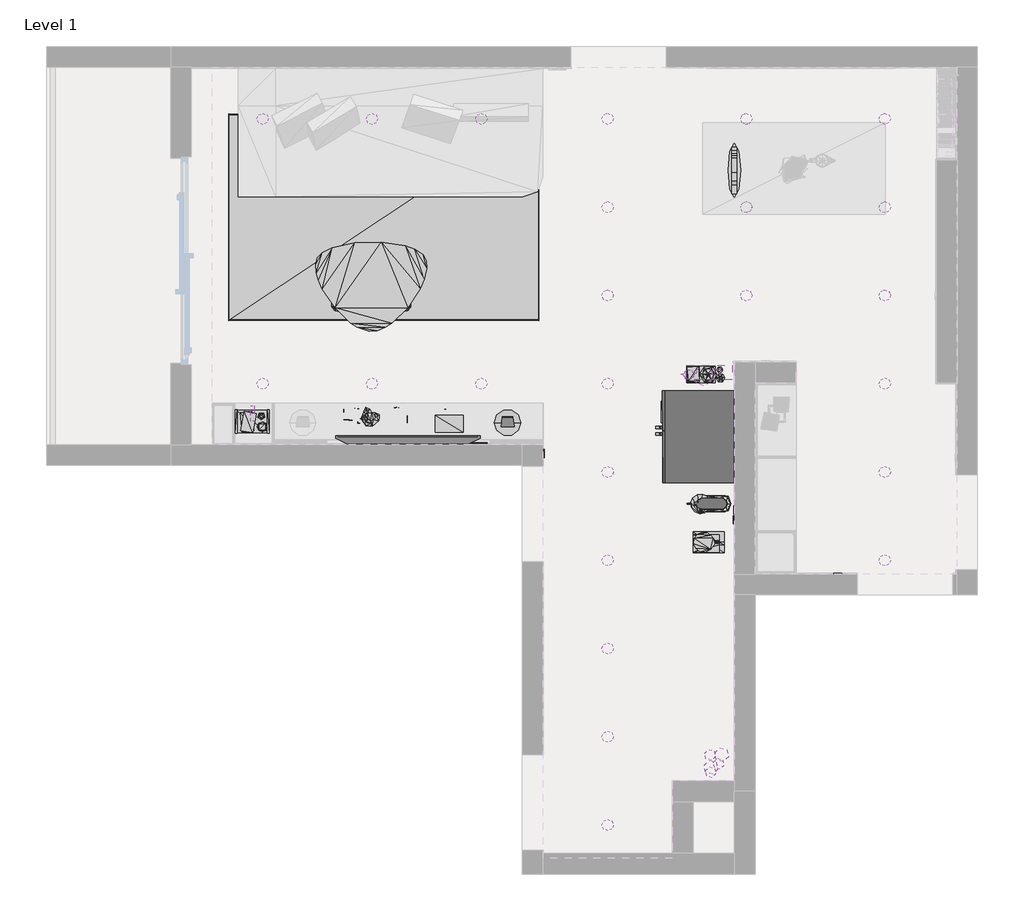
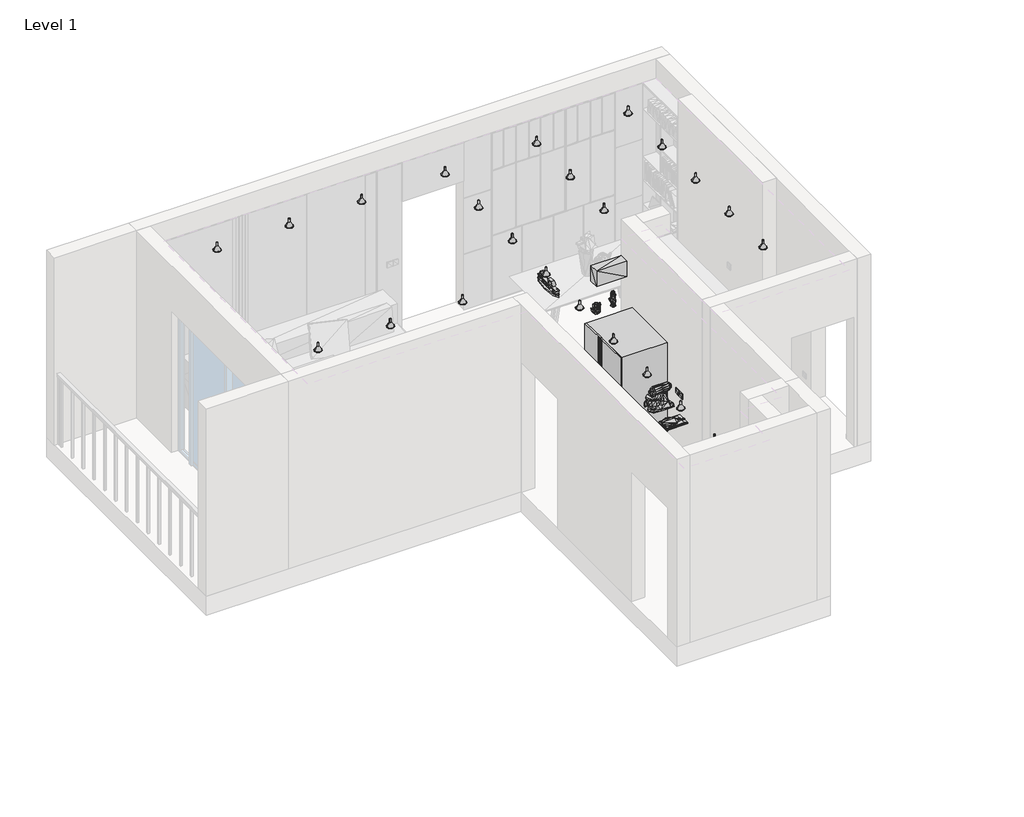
# One storey, part 2 of 3: 29 geographic elements, 24 light fixtures, 2 furniture elements, 2 proxies.
"""IFC4 building model written with IfcOpenShell, lengths in millimetres."""

from ifc_helpers import new_model, si_unit, origin, place, context, project, spatial, transform, mapped, element, save
from components import mechanical_equipment_7a85856d, generic_models_adb6d911, entertainment_center_7110_entertainment_center_7110_d1725c8a, entertainment_center_7110b_entertainment_center_7110b_65f11607, geographic_element_aec7c37b, geographic_element_2cbf6ab3, geographic_element_e55dff35, geographic_element_60de37d3, geographic_element_47339385, geographic_element_f00d6f87, geographic_element_e3092fa0, geographic_element_5165f58f, geographic_element_de3b21ac, geographic_element_a1bea7bb, enscape_assetdefinition_books_04_enscape_assetdefinition_30a1759c, enscape_assetdefinition_books_07_enscape_assetdefinition_6df3b323, enscape_assetdefinition_books_08_enscape_assetdefinition_a813a285, enscape_assetdefinition_books_09_enscape_assetdefinition_7b06a2d0, enscape_assetdefinition_books_enscape_assetdefinition_books_90869a48, enscape_assetdefinition_cutting_board_set_enscape_92c2f0eb, enscape_assetdefinition_electric_mixer_enscape_94847bc3, enscape_assetdefinition_light_switch_02_enscape_37d4c2cf, enscape_assetdefinition_power_socket_enscape_assetdefinition_57b8c8f3, enscape_assetdefinition_rug_05_enscape_assetdefinition_rug_c4f60c79, enscape_assetdefinition_side_table_11_enscape_a87c3a88, enscape_assetdefinition_vase_09_enscape_assetdefinition_vase_b8f886cf, light_fixture_bf0697d5

model = new_model("IFC4")

# Units and contexts
model_context = context("Model", 3, world=origin())
ifc_project = project(units=[si_unit("LENGTHUNIT", "METRE", prefix="MILLI")], contexts=[model_context])

# Site, building, storey
site = spatial("IfcSite", under=ifc_project)
building = spatial("IfcBuilding", under=site)
storey = spatial("IfcBuildingStorey", under=building, Name="Level 1", Elevation=0.0)

# Proxies
placement = place(None, origin())
mechanical_equipment_shape = mechanical_equipment_7a85856d(model_context)
element("IfcBuildingElementProxy", 1, Name="Refridgrator_with_Water_amp_Ice_Dispenser_7145 : Refridgrator_with_Water_amp_Ice_Dispenser_7145", ObjectType="Refridgrator_with_Water_amp_Ice_Dispenser_7145 : Refridgrator_with_Water_amp_Ice_Dispenser_7145", at=placement, inside=storey, context=model_context, shape_type="MappedRepresentation", body=[
    mapped(mechanical_equipment_shape, transform((-13.3010987, -2282.1687653, 0.0), x_axis=(0.0, -1.0, 0.0), y_axis=(1.0, 0.0, 0.0), z_axis=(0.0, 0.0, 1.0))),
])
generic_models_shape = generic_models_adb6d911(model_context)
element("IfcBuildingElementProxy", 2, Name="ArcPro Statue : ArcPro Statue", ObjectType="ArcPro Statue : ArcPro Statue", at=placement, inside=storey, context=model_context, shape_type="MappedRepresentation", body=[
    mapped(generic_models_shape, transform((-203.301098, -83.7653633, 720.3010613), x_axis=(0.0, -1.0, 0.0), y_axis=(1.0, 0.0, 0.0), z_axis=(0.0, 0.0, 1.0))),
])

# Furniture
entertainment_center_7110_entertainment_center_7110_shape = entertainment_center_7110_entertainment_center_7110_d1725c8a(model_context)
element("IfcFurniture", 3, ObjectType="Entertainment_Center_7110 : Entertainment_Center_7110", at=placement, inside=storey, context=model_context, shape_type="MappedRepresentation", body=[
    mapped(entertainment_center_7110_entertainment_center_7110_shape, transform((-3433.3010987, -2487.1687653, -120.0), x_axis=(-1.0, 0.0, 0.0), y_axis=(0.0, -1.0, 0.0), z_axis=(0.0, 0.0, 1.0))),
])
entertainment_center_7110b_entertainment_center_7110b_shape = entertainment_center_7110b_entertainment_center_7110b_65f11607(model_context)
element("IfcFurniture", 4, ObjectType="Entertainment_Center_7110b : Entertainment_Center_7110b", at=placement, inside=storey, context=model_context, shape_type="MappedRepresentation", body=[
    mapped(entertainment_center_7110b_entertainment_center_7110b_shape, transform((-2393.3010987, -2282.1687653, -120.0), x_axis=(-1.0, 0.0, 0.0), y_axis=(0.0, -1.0, 0.0), z_axis=(0.0, 0.0, 1.0))),
])

# Geographic elements
geographic_element_shape = geographic_element_aec7c37b(model_context)
element("IfcGeographicElement", 5, ObjectType="Enscape AssetDefinition - Cactus, Porcelain 03 : Enscape AssetDefinition - Cactus, Porcelain 03", at=placement, inside=storey, context=model_context, shape_type="MappedRepresentation", body=[
    mapped(geographic_element_shape, transform((-643.3010987, -2122.1687653, 1690.0), x_axis=(1.0, 0.0, 0.0), y_axis=(0.0, 1.0, 0.0), z_axis=(0.0, 0.0, 1.0))),
])
geographic_element_2_shape = geographic_element_2cbf6ab3(model_context)
element("IfcGeographicElement", 6, ObjectType="Enscape AssetDefinition - Cactus, Porcelain 02 : Enscape AssetDefinition - Cactus, Porcelain 02", at=placement, inside=storey, context=model_context, shape_type="MappedRepresentation", body=[
    mapped(geographic_element_2_shape, transform((-383.3010987, -2102.1687653, 1690.0), x_axis=(1.0, 0.0, 0.0), y_axis=(0.0, 1.0, 0.0), z_axis=(0.0, 0.0, 1.0))),
])
geographic_element_3_shape = geographic_element_e55dff35(model_context)
element("IfcGeographicElement", 7, ObjectType="Enscape AssetDefinition - Candle Lantern 02 : Enscape AssetDefinition - Candle Lantern 02", at=placement, inside=storey, context=model_context, shape_type="MappedRepresentation", body=[
    mapped(geographic_element_3_shape, transform((-4853.3010987, -2592.1687653, 18.0), x_axis=(1.0, 0.0, 0.0), y_axis=(0.0, 1.0, 0.0), z_axis=(0.0, 0.0, 1.0))),
])
geographic_element_4_shape = geographic_element_60de37d3(model_context)
element("IfcGeographicElement", 8, ObjectType="Enscape AssetDefinition - Candle Tray 02 : Enscape AssetDefinition - Candle Tray 02", at=placement, inside=storey, context=model_context, shape_type="MappedRepresentation", body=[
    mapped(geographic_element_4_shape, transform((-4853.3010987, -2592.1687653, 534.299), x_axis=(1.0, 0.0, 0.0), y_axis=(0.0, 1.0, 0.0), z_axis=(0.0, 0.0, 1.0))),
])
geographic_element_5_shape = geographic_element_47339385(model_context)
element("IfcGeographicElement", 9, ObjectType="Enscape AssetDefinition - Candle Tray 03 : Enscape AssetDefinition - Candle Tray 03", at=placement, inside=storey, context=model_context, shape_type="MappedRepresentation", body=[
    mapped(geographic_element_5_shape, transform((-3727.693069, -2537.1687653, 300.0), x_axis=(1.0, 0.0, 0.0), y_axis=(0.0, 1.0, 0.0), z_axis=(0.0, 0.0, 1.0))),
])
geographic_element_6_shape = geographic_element_f00d6f87(model_context)
element("IfcGeographicElement", 10, ObjectType="Enscape AssetDefinition - Canister : Enscape AssetDefinition - Canister", at=placement, inside=storey, context=model_context, shape_type="MappedRepresentation", body=[
    mapped(geographic_element_6_shape, transform((-431.6882205, -5967.6588627, 1747.8535534), x_axis=(0.19080899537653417, -0.9816271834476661, 0.0), y_axis=(0.9816271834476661, 0.19080899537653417, 0.0), z_axis=(0.0, 0.0, 1.0))),
])
element("IfcGeographicElement", 11, ObjectType="Enscape AssetDefinition - Canister : Enscape AssetDefinition - Canister", at=placement, inside=storey, context=model_context, shape_type="MappedRepresentation", body=[
    mapped(geographic_element_6_shape, transform((-355.5098715, -5886.8384498, 1747.8535534), x_axis=(0.19080899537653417, -0.9816271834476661, 0.0), y_axis=(0.9816271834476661, 0.19080899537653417, 0.0), z_axis=(0.0, 0.0, 1.0))),
])
element("IfcGeographicElement", 12, ObjectType="Enscape AssetDefinition - Canister : Enscape AssetDefinition - Canister", at=placement, inside=storey, context=model_context, shape_type="MappedRepresentation", body=[
    mapped(geographic_element_6_shape, transform((-438.1620507, -5801.2364798, 1747.8535534), x_axis=(0.19080899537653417, -0.9816271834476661, 0.0), y_axis=(0.9816271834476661, 0.19080899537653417, 0.0), z_axis=(0.0, 0.0, 1.0))),
])
geographic_element_7_shape = geographic_element_e3092fa0(model_context)
element("IfcGeographicElement", 13, ObjectType="Enscape AssetDefinition - Canister 02 : Enscape AssetDefinition - Canister 02", at=placement, inside=storey, context=model_context, shape_type="MappedRepresentation", body=[
    mapped(geographic_element_7_shape, transform((-429.6747518, -5920.6090325, 1388.0831683), x_axis=(0.2588190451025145, -0.96592582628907, 0.0), y_axis=(0.96592582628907, 0.2588190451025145, 0.0), z_axis=(0.0, 0.0, 1.0))),
])
element("IfcGeographicElement", 14, ObjectType="Enscape AssetDefinition - Canister 02 : Enscape AssetDefinition - Canister 02", at=placement, inside=storey, context=model_context, shape_type="MappedRepresentation", body=[
    mapped(geographic_element_7_shape, transform((-327.1531595, -5800.1706536, 1388.0831683), x_axis=(0.2588190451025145, -0.96592582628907, 0.0), y_axis=(0.96592582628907, 0.2588190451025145, 0.0), z_axis=(0.0, 0.0, 1.0))),
])
geographic_element_8_shape = geographic_element_5165f58f(model_context)
element("IfcGeographicElement", 15, ObjectType="Enscape AssetDefinition - Decoration Collection : Enscape AssetDefinition - Decoration Collection", at=placement, inside=storey, context=model_context, shape_type="MappedRepresentation", body=[
    mapped(geographic_element_8_shape, transform((-493.3010987, -2122.1687653, 820.0010399), x_axis=(1.0, 0.0, 0.0), y_axis=(0.0, 1.0, 0.0), z_axis=(0.0, 0.0, 1.0))),
])
geographic_element_9_shape = geographic_element_de3b21ac(model_context)
element("IfcGeographicElement", 16, ObjectType="Enscape AssetDefinition - Decoration Collection 02 : Enscape AssetDefinition - Decoration Collection 02", at=placement, inside=storey, context=model_context, shape_type="MappedRepresentation", body=[
    mapped(geographic_element_9_shape, transform((-4864.821284, -2577.1687653, 1050.579), x_axis=(1.0, 0.0, 0.0), y_axis=(0.0, 1.0, 0.0), z_axis=(0.0, 0.0, 1.0))),
])
geographic_element_10_shape = geographic_element_a1bea7bb(model_context)
element("IfcGeographicElement", 17, ObjectType="Enscape AssetDefinition - Envelopes : Enscape AssetDefinition - Envelopes", at=placement, inside=storey, context=model_context, shape_type="MappedRepresentation", body=[
    mapped(geographic_element_10_shape, transform((-2938.3010987, -2602.1687653, 300.0), x_axis=(1.0, 0.0, 0.0), y_axis=(0.0, 1.0, 0.0), z_axis=(0.0, 0.0, 1.0))),
])
enscape_assetdefinition_books_04_enscape_assetdefinition_shape = enscape_assetdefinition_books_04_enscape_assetdefinition_30a1759c(model_context)
element("IfcGeographicElement", 18, ObjectType="Enscape AssetDefinition - Books 04 : Enscape AssetDefinition - Books 04", at=placement, inside=storey, context=model_context, shape_type="MappedRepresentation", body=[
    mapped(enscape_assetdefinition_books_04_enscape_assetdefinition_shape, transform((-445.316718, -2102.1687653, 2125.0), x_axis=(-1.0, 0.0, 0.0), y_axis=(0.0, -1.0, 0.0), z_axis=(0.0, 0.0, 1.0))),
])
enscape_assetdefinition_books_07_enscape_assetdefinition_shape = enscape_assetdefinition_books_07_enscape_assetdefinition_6df3b323(model_context)
element("IfcGeographicElement", 19, ObjectType="Enscape AssetDefinition - Books 07 : Enscape AssetDefinition - Books 07", at=placement, inside=storey, context=model_context, shape_type="MappedRepresentation", body=[
    mapped(enscape_assetdefinition_books_07_enscape_assetdefinition_shape, transform((-3049.5510987, -2547.1687653, 38.125), x_axis=(0.0, -1.0, 0.0), y_axis=(1.0, 0.0, 0.0), z_axis=(0.0, 0.0, 1.0))),
])
enscape_assetdefinition_books_08_enscape_assetdefinition_shape = enscape_assetdefinition_books_08_enscape_assetdefinition_a813a285(model_context)
element("IfcGeographicElement", 20, ObjectType="Enscape AssetDefinition - Books 08 : Enscape AssetDefinition - Books 08", at=placement, inside=storey, context=model_context, shape_type="MappedRepresentation", body=[
    mapped(enscape_assetdefinition_books_08_enscape_assetdefinition_shape, transform((-3445.5914757, -2514.8438838, 38.125), x_axis=(0.9999715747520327, -0.007539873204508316, 0.0), y_axis=(0.007539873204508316, 0.9999715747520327, 0.0), z_axis=(0.0, 0.0, 1.0))),
])
enscape_assetdefinition_books_09_enscape_assetdefinition_shape = enscape_assetdefinition_books_09_enscape_assetdefinition_7b06a2d0(model_context)
element("IfcGeographicElement", 21, ObjectType="Enscape AssetDefinition - Books 09 : Enscape AssetDefinition - Books 09", at=placement, inside=storey, context=model_context, shape_type="MappedRepresentation", body=[
    mapped(enscape_assetdefinition_books_09_enscape_assetdefinition_shape, transform((-3849.5510987, -2517.1687653, 38.125), x_axis=(-1.0, 0.0, 0.0), y_axis=(0.0, -1.0, 0.0), z_axis=(0.0, 0.0, 1.0))),
])
enscape_assetdefinition_books_enscape_assetdefinition_books_shape = enscape_assetdefinition_books_enscape_assetdefinition_books_90869a48(model_context)
element("IfcGeographicElement", 22, ObjectType="Enscape AssetDefinition - Books : Enscape AssetDefinition - Books", at=placement, inside=storey, context=model_context, shape_type="MappedRepresentation", body=[
    mapped(enscape_assetdefinition_books_enscape_assetdefinition_books_shape, transform((-4873.3010987, -2577.1687653, 1565.0), x_axis=(0.0, 1.0, 0.0), y_axis=(-1.0, 0.0, 0.0), z_axis=(0.0, 0.0, 1.0))),
])
enscape_assetdefinition_cutting_board_set_enscape_shape = enscape_assetdefinition_cutting_board_set_enscape_92c2f0eb(model_context)
element("IfcGeographicElement", 23, ObjectType="Enscape AssetDefinition - Cutting Board Set : Enscape AssetDefinition - Cutting Board Set", at=placement, inside=storey, context=model_context, shape_type="MappedRepresentation", body=[
    mapped(enscape_assetdefinition_cutting_board_set_enscape_shape, transform((-583.3010987, -3742.1687653, 888.6662791), x_axis=(1.0, 0.0, 0.0), y_axis=(0.0, 1.0, 0.0), z_axis=(0.0, 0.0, 1.0))),
])
enscape_assetdefinition_electric_mixer_enscape_shape = enscape_assetdefinition_electric_mixer_enscape_94847bc3(model_context)
element("IfcGeographicElement", 24, ObjectType="Enscape AssetDefinition - Electric Mixer : Enscape AssetDefinition - Electric Mixer", at=placement, inside=storey, context=model_context, shape_type="MappedRepresentation", body=[
    mapped(enscape_assetdefinition_electric_mixer_enscape_shape, transform((-443.3010987, -3372.1687653, 888.7), x_axis=(0.0, -1.0, 0.0), y_axis=(1.0, 0.0, 0.0), z_axis=(0.0, 0.0, 1.0))),
])
enscape_assetdefinition_light_switch_02_enscape_shape = enscape_assetdefinition_light_switch_02_enscape_37d4c2cf(model_context)
element("IfcGeographicElement", 25, ObjectType="Enscape AssetDefinition - Light Switch 02 : Enscape AssetDefinition - Light Switch 02", at=placement, inside=storey, context=model_context, shape_type="MappedRepresentation", body=[
    mapped(enscape_assetdefinition_light_switch_02_enscape_shape, transform((-2053.3010987, -2887.1687653, 1100.0), x_axis=(0.0, 1.0, 0.0), y_axis=(-1.0, 0.0, 0.0), z_axis=(0.0, 0.0, 1.0))),
])
element("IfcGeographicElement", 26, ObjectType="Enscape AssetDefinition - Light Switch 02 : Enscape AssetDefinition - Light Switch 02", at=placement, inside=storey, context=model_context, shape_type="MappedRepresentation", body=[
    mapped(enscape_assetdefinition_light_switch_02_enscape_shape, transform((-203.3010987, -3527.1687653, 1100.0), x_axis=(0.0, -1.0, 0.0), y_axis=(1.0, 0.0, 0.0), z_axis=(0.0, 0.0, 1.0))),
])
enscape_assetdefinition_power_socket_enscape_assetdefinition_shape = enscape_assetdefinition_power_socket_enscape_assetdefinition_57b8c8f3(model_context)
element("IfcGeographicElement", 27, ObjectType="Enscape AssetDefinition - Power Socket : Enscape AssetDefinition - Power Socket", at=placement, inside=storey, context=model_context, shape_type="MappedRepresentation", body=[
    mapped(enscape_assetdefinition_power_socket_enscape_assetdefinition_shape, transform((796.6989013, -4052.1687653, 300.0), x_axis=(-1.0, 0.0, 0.0), y_axis=(0.0, -1.0, 0.0), z_axis=(0.0, 0.0, 1.0))),
])
element("IfcGeographicElement", 28, ObjectType="Enscape AssetDefinition - Power Socket : Enscape AssetDefinition - Power Socket", at=placement, inside=storey, context=model_context, shape_type="MappedRepresentation", body=[
    mapped(enscape_assetdefinition_power_socket_enscape_assetdefinition_shape, transform((-203.3010987, -3432.1687653, 1100.0), x_axis=(0.0, -1.0, 0.0), y_axis=(1.0, 0.0, 0.0), z_axis=(0.0, 0.0, 1.0))),
])
element("IfcGeographicElement", 29, ObjectType="Enscape AssetDefinition - Power Socket : Enscape AssetDefinition - Power Socket", at=placement, inside=storey, context=model_context, shape_type="MappedRepresentation", body=[
    mapped(enscape_assetdefinition_power_socket_enscape_assetdefinition_shape, transform((-2633.3010987, -2792.1687653, 700.0), x_axis=(-1.0, 0.0, 0.0), y_axis=(0.0, -1.0, 0.0), z_axis=(0.0, 0.0, 1.0))),
])
element("IfcGeographicElement", 30, ObjectType="Enscape AssetDefinition - Power Socket : Enscape AssetDefinition - Power Socket", at=placement, inside=storey, context=model_context, shape_type="MappedRepresentation", body=[
    mapped(enscape_assetdefinition_power_socket_enscape_assetdefinition_shape, transform((-2718.3010987, -2792.1687653, 700.0), x_axis=(-1.0, 0.0, 0.0), y_axis=(0.0, -1.0, 0.0), z_axis=(0.0, 0.0, 1.0))),
])
enscape_assetdefinition_rug_05_enscape_assetdefinition_rug_shape = enscape_assetdefinition_rug_05_enscape_assetdefinition_rug_c4f60c79(model_context)
element("IfcGeographicElement", 31, ObjectType="Enscape AssetDefinition - Rug 05 : Enscape AssetDefinition - Rug 05", at=placement, inside=storey, context=model_context, shape_type="MappedRepresentation", body=[
    mapped(enscape_assetdefinition_rug_05_enscape_assetdefinition_rug_shape, transform((-3593.3010987, -602.1687653, 0.0), x_axis=(0.0, -1.0, 0.0), y_axis=(1.0, 0.0, 0.0), z_axis=(0.0, 0.0, 1.0))),
])
enscape_assetdefinition_side_table_11_enscape_shape = enscape_assetdefinition_side_table_11_enscape_a87c3a88(model_context)
element("IfcGeographicElement", 32, ObjectType="Enscape AssetDefinition - Side Table 11 : Enscape AssetDefinition - Side Table 11", at=placement, inside=storey, context=model_context, shape_type="MappedRepresentation", body=[
    mapped(enscape_assetdefinition_side_table_11_enscape_shape, transform((-3714.07347, -1272.1888997, 0.0), x_axis=(0.0, -1.0, 0.0), y_axis=(1.0, 0.0, 0.0), z_axis=(0.0, 0.0, 1.0))),
])
enscape_assetdefinition_vase_09_enscape_assetdefinition_vase_shape = enscape_assetdefinition_vase_09_enscape_assetdefinition_vase_b8f886cf(model_context)
element("IfcGeographicElement", 33, ObjectType="Enscape AssetDefinition - Vase 09 : Enscape AssetDefinition - Vase 09", at=placement, inside=storey, context=model_context, shape_type="MappedRepresentation", body=[
    mapped(enscape_assetdefinition_vase_09_enscape_assetdefinition_vase_shape, transform((-502.5975386, -2139.1834334, 1255.0), x_axis=(1.0, 0.0, 0.0), y_axis=(0.0, 1.0, 0.0), z_axis=(0.0, 0.0, 1.0))),
])

# Light fixtures
light_fixture_shape = light_fixture_bf0697d5(model_context)
element("IfcLightFixture", 34, ObjectType="CS HALLA RAVO (vestavné) : CS HALLA RAVO (vestavné)", at=placement, inside=storey, context=model_context, shape_type="MappedRepresentation", body=[
    mapped(light_fixture_shape, transform((-4763.3010987, 347.8312347, 2600.0), x_axis=(1.0, 0.0, 0.0), y_axis=(0.0, -1.0, 0.0), z_axis=(0.0, 0.0, -1.0))),
])
element("IfcLightFixture", 35, ObjectType="CS HALLA RAVO (vestavné) : CS HALLA RAVO (vestavné)", at=placement, inside=storey, context=model_context, shape_type="MappedRepresentation", body=[
    mapped(light_fixture_shape, transform((1251.6989013, 347.8312347, 2600.0), x_axis=(1.0, 0.0, 0.0), y_axis=(0.0, -1.0, 0.0), z_axis=(0.0, 0.0, -1.0))),
])
element("IfcLightFixture", 36, ObjectType="CS HALLA RAVO (vestavné) : CS HALLA RAVO (vestavné)", at=placement, inside=storey, context=model_context, shape_type="MappedRepresentation", body=[
    mapped(light_fixture_shape, transform((-3706.6344321, 347.8312347, 2600.0), x_axis=(1.0, 0.0, 0.0), y_axis=(0.0, -1.0, 0.0), z_axis=(0.0, 0.0, -1.0))),
])
element("IfcLightFixture", 37, ObjectType="CS HALLA RAVO (vestavné) : CS HALLA RAVO (vestavné)", at=placement, inside=storey, context=model_context, shape_type="MappedRepresentation", body=[
    mapped(light_fixture_shape, transform((-2649.9677654, 347.8312347, 2600.0), x_axis=(1.0, 0.0, 0.0), y_axis=(0.0, -1.0, 0.0), z_axis=(0.0, 0.0, -1.0))),
])
element("IfcLightFixture", 38, ObjectType="CS HALLA RAVO (vestavné) : CS HALLA RAVO (vestavné)", at=placement, inside=storey, context=model_context, shape_type="MappedRepresentation", body=[
    mapped(light_fixture_shape, transform((-1428.3010987, 347.8312347, 2600.0), x_axis=(1.0, 0.0, 0.0), y_axis=(0.0, -1.0, 0.0), z_axis=(0.0, 0.0, -1.0))),
])
element("IfcLightFixture", 39, ObjectType="CS HALLA RAVO (vestavné) : CS HALLA RAVO (vestavné)", at=placement, inside=storey, context=model_context, shape_type="MappedRepresentation", body=[
    mapped(light_fixture_shape, transform((-88.3010987, 347.8312347, 2600.0), x_axis=(1.0, 0.0, 0.0), y_axis=(0.0, -1.0, 0.0), z_axis=(0.0, 0.0, -1.0))),
])
element("IfcLightFixture", 40, ObjectType="CS HALLA RAVO (vestavné) : CS HALLA RAVO (vestavné)", at=placement, inside=storey, context=model_context, shape_type="MappedRepresentation", body=[
    mapped(light_fixture_shape, transform((-4763.3010987, -2212.1687653, 2600.0), x_axis=(1.0, 0.0, 0.0), y_axis=(0.0, -1.0, 0.0), z_axis=(0.0, 0.0, -1.0))),
])
element("IfcLightFixture", 41, ObjectType="CS HALLA RAVO (vestavné) : CS HALLA RAVO (vestavné)", at=placement, inside=storey, context=model_context, shape_type="MappedRepresentation", body=[
    mapped(light_fixture_shape, transform((1251.6989013, -2212.1687653, 2600.0), x_axis=(1.0, 0.0, 0.0), y_axis=(0.0, -1.0, 0.0), z_axis=(0.0, 0.0, -1.0))),
])
element("IfcLightFixture", 42, ObjectType="CS HALLA RAVO (vestavné) : CS HALLA RAVO (vestavné)", at=placement, inside=storey, context=model_context, shape_type="MappedRepresentation", body=[
    mapped(light_fixture_shape, transform((-3706.6344321, -2212.1687653, 2600.0), x_axis=(1.0, 0.0, 0.0), y_axis=(0.0, -1.0, 0.0), z_axis=(0.0, 0.0, -1.0))),
])
element("IfcLightFixture", 43, ObjectType="CS HALLA RAVO (vestavné) : CS HALLA RAVO (vestavné)", at=placement, inside=storey, context=model_context, shape_type="MappedRepresentation", body=[
    mapped(light_fixture_shape, transform((-2649.9677654, -2212.1687653, 2600.0), x_axis=(1.0, 0.0, 0.0), y_axis=(0.0, -1.0, 0.0), z_axis=(0.0, 0.0, -1.0))),
])
element("IfcLightFixture", 44, ObjectType="CS HALLA RAVO (vestavné) : CS HALLA RAVO (vestavné)", at=placement, inside=storey, context=model_context, shape_type="MappedRepresentation", body=[
    mapped(light_fixture_shape, transform((-1428.3010987, -2212.1687653, 2600.0), x_axis=(1.0, 0.0, 0.0), y_axis=(0.0, -1.0, 0.0), z_axis=(0.0, 0.0, -1.0))),
])
element("IfcLightFixture", 45, ObjectType="CS HALLA RAVO (vestavné) : CS HALLA RAVO (vestavné)", at=placement, inside=storey, context=model_context, shape_type="MappedRepresentation", body=[
    mapped(light_fixture_shape, transform((1251.6989013, -505.5020986, 2600.0), x_axis=(1.0, 0.0, 0.0), y_axis=(0.0, -1.0, 0.0), z_axis=(0.0, 0.0, -1.0))),
])
element("IfcLightFixture", 46, ObjectType="CS HALLA RAVO (vestavné) : CS HALLA RAVO (vestavné)", at=placement, inside=storey, context=model_context, shape_type="MappedRepresentation", body=[
    mapped(light_fixture_shape, transform((-1428.3010987, -505.5020986, 2600.0), x_axis=(1.0, 0.0, 0.0), y_axis=(0.0, -1.0, 0.0), z_axis=(0.0, 0.0, -1.0))),
])
element("IfcLightFixture", 47, ObjectType="CS HALLA RAVO (vestavné) : CS HALLA RAVO (vestavné)", at=placement, inside=storey, context=model_context, shape_type="MappedRepresentation", body=[
    mapped(light_fixture_shape, transform((-88.3010987, -505.5020986, 2600.0), x_axis=(1.0, 0.0, 0.0), y_axis=(0.0, -1.0, 0.0), z_axis=(0.0, 0.0, -1.0))),
])
element("IfcLightFixture", 48, ObjectType="CS HALLA RAVO (vestavné) : CS HALLA RAVO (vestavné)", at=placement, inside=storey, context=model_context, shape_type="MappedRepresentation", body=[
    mapped(light_fixture_shape, transform((1251.6989013, -1358.8354319, 2600.0), x_axis=(1.0, 0.0, 0.0), y_axis=(0.0, -1.0, 0.0), z_axis=(0.0, 0.0, -1.0))),
])
element("IfcLightFixture", 49, ObjectType="CS HALLA RAVO (vestavné) : CS HALLA RAVO (vestavné)", at=placement, inside=storey, context=model_context, shape_type="MappedRepresentation", body=[
    mapped(light_fixture_shape, transform((-1428.3010987, -1358.8354319, 2600.0), x_axis=(1.0, 0.0, 0.0), y_axis=(0.0, -1.0, 0.0), z_axis=(0.0, 0.0, -1.0))),
])
element("IfcLightFixture", 50, ObjectType="CS HALLA RAVO (vestavné) : CS HALLA RAVO (vestavné)", at=placement, inside=storey, context=model_context, shape_type="MappedRepresentation", body=[
    mapped(light_fixture_shape, transform((-88.3010987, -1358.8354319, 2600.0), x_axis=(1.0, 0.0, 0.0), y_axis=(0.0, -1.0, 0.0), z_axis=(0.0, 0.0, -1.0))),
])
element("IfcLightFixture", 51, ObjectType="CS HALLA RAVO (vestavné) : CS HALLA RAVO (vestavné)", at=placement, inside=storey, context=model_context, shape_type="MappedRepresentation", body=[
    mapped(light_fixture_shape, transform((-1428.3010987, -4772.1687653, 2600.0), x_axis=(1.0, 0.0, 0.0), y_axis=(0.0, -1.0, 0.0), z_axis=(0.0, 0.0, -1.0))),
])
element("IfcLightFixture", 52, ObjectType="CS HALLA RAVO (vestavné) : CS HALLA RAVO (vestavné)", at=placement, inside=storey, context=model_context, shape_type="MappedRepresentation", body=[
    mapped(light_fixture_shape, transform((-1428.3010987, -3065.5020986, 2600.0), x_axis=(1.0, 0.0, 0.0), y_axis=(0.0, -1.0, 0.0), z_axis=(0.0, 0.0, -1.0))),
])
element("IfcLightFixture", 53, ObjectType="CS HALLA RAVO (vestavné) : CS HALLA RAVO (vestavné)", at=placement, inside=storey, context=model_context, shape_type="MappedRepresentation", body=[
    mapped(light_fixture_shape, transform((-1428.3010987, -3918.8354319, 2600.0), x_axis=(1.0, 0.0, 0.0), y_axis=(0.0, -1.0, 0.0), z_axis=(0.0, 0.0, -1.0))),
])
element("IfcLightFixture", 54, ObjectType="CS HALLA RAVO (vestavné) : CS HALLA RAVO (vestavné)", at=placement, inside=storey, context=model_context, shape_type="MappedRepresentation", body=[
    mapped(light_fixture_shape, transform((-1428.3010987, -5625.5020986, 2600.0), x_axis=(1.0, 0.0, 0.0), y_axis=(0.0, -1.0, 0.0), z_axis=(0.0, 0.0, -1.0))),
])
element("IfcLightFixture", 55, ObjectType="CS HALLA RAVO (vestavné) : CS HALLA RAVO (vestavné)", at=placement, inside=storey, context=model_context, shape_type="MappedRepresentation", body=[
    mapped(light_fixture_shape, transform((-1428.3010987, -6478.8354319, 2600.0), x_axis=(1.0, 0.0, 0.0), y_axis=(0.0, -1.0, 0.0), z_axis=(0.0, 0.0, -1.0))),
])
element("IfcLightFixture", 56, ObjectType="CS HALLA RAVO (vestavné) : CS HALLA RAVO (vestavné)", at=placement, inside=storey, context=model_context, shape_type="MappedRepresentation", body=[
    mapped(light_fixture_shape, transform((1251.6989013, -3918.8354319, 2600.0), x_axis=(1.0, 0.0, 0.0), y_axis=(0.0, -1.0, 0.0), z_axis=(0.0, 0.0, -1.0))),
])
element("IfcLightFixture", 57, ObjectType="CS HALLA RAVO (vestavné) : CS HALLA RAVO (vestavné)", at=placement, inside=storey, context=model_context, shape_type="MappedRepresentation", body=[
    mapped(light_fixture_shape, transform((1251.6989013, -3065.5020986, 2600.0), x_axis=(1.0, 0.0, 0.0), y_axis=(0.0, -1.0, 0.0), z_axis=(0.0, 0.0, -1.0))),
])

save(model, "model.ifc")
